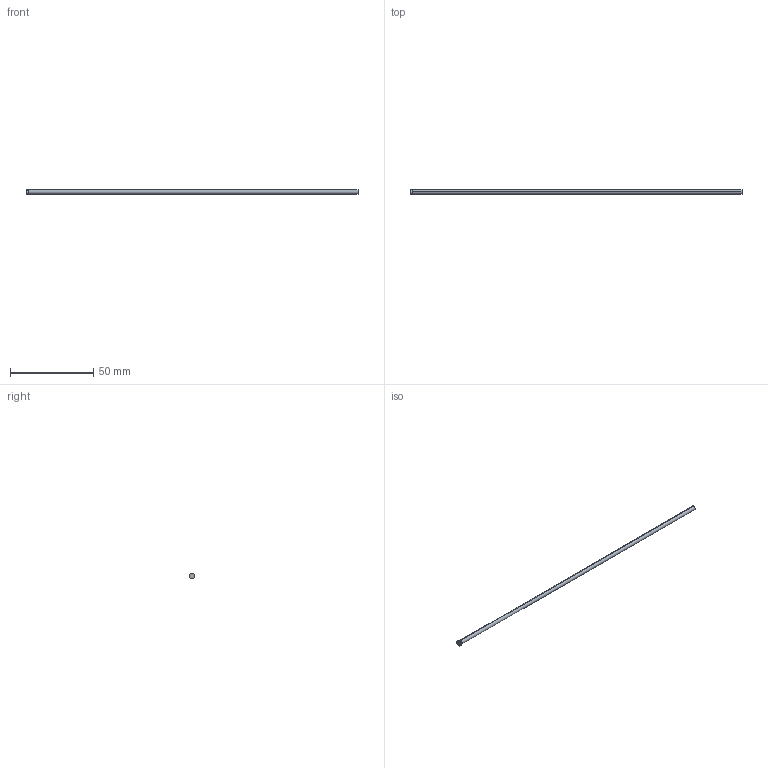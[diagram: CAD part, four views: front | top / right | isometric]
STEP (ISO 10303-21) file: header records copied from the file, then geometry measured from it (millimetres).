
FILE_DESCRIPTION (( 'STEP AP214' ), '1' );
FILE_NAME ('D-2,5x200.STEP', '2020-06-08T10:07:03', ( 'August' ), ( '' ), 'SwSTEP 2.0', 'SolidWorks 2018', '' );
FILE_SCHEMA (( 'AUTOMOTIVE_DESIGN' ));
Length unit declared in the file: millimetre
Products named in the file (1): D-2,5x200
Bounding box: 200 x 3.5 x 3.5 mm (x, y, z)
Volume: 986.1 mm3; surface area: 1589.5 mm2
Topology: 1 solids, 1 shells, 10 faces, 18 edges, 10 vertices
Faces by surface type: cylinder 4, torus 2, cone 2, plane 2
Entity records: 280 total; most frequent: DIRECTION 52, CARTESIAN_POINT 39, ORIENTED_EDGE 36, AXIS2_PLACEMENT_3D 23, EDGE_CURVE 18, CIRCLE 12, FACE_OUTER_BOUND 10, VERTEX_POINT 10
